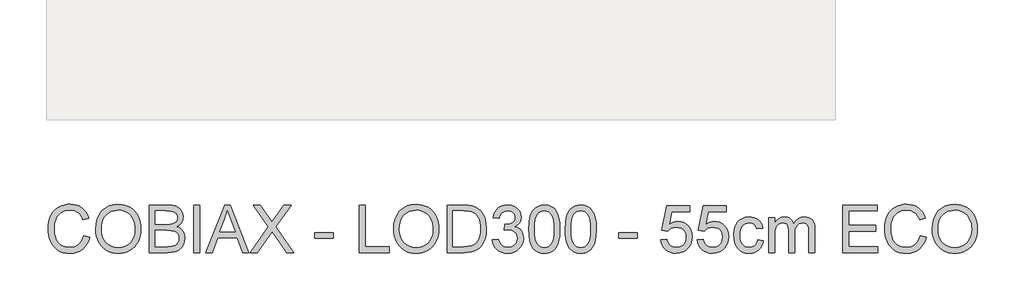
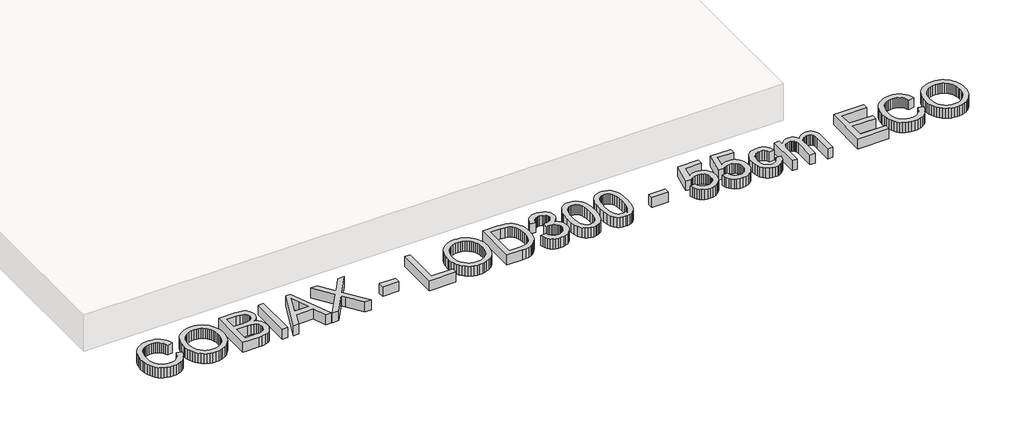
# One storey, part 8 of 18: 1 proxy.
"""IFC4 building model written with IfcOpenShell, lengths in millimetres."""

import ifcopenshell
import ifcopenshell.guid

model = None  # the IFC model being written
_history = None  # IfcOwnerHistory: only IFC2X3 demands one
_inside = {}  # id of a spatial element -> (the spatial element, [elements in it])
_under = {}  # id of a project, library or spatial element -> (it, [spatial elements below it])
_declared = {}  # id of a project -> (the project, [libraries it declares])
_typed = {}  # id of a type object -> (the type object, [elements of that type])
_made_of = {}  # id of a material, layer set ... -> (it, [elements and type objects made of it])


def new_model(schema):
    """Start an empty IFC model of exactly this schema.

    Asked for "IFC4X3", IfcOpenShell would pick the latest addendum, in which some entities
    have other attributes; the version numbers below select the first issue.
    IFC2X3 requires an IfcOwnerHistory on every rooted entity: one is made here for all.
    """
    global model, _history
    if schema == "IFC4X3":
        model = ifcopenshell.file(schema_version=(4, 3, 0, 0))
    else:
        model = ifcopenshell.file(schema=schema)
    _inside.clear()
    _under.clear()
    _declared.clear()
    _typed.clear()
    _made_of.clear()
    _history = None
    if model.schema == "IFC2X3":
        org = make("IfcOrganization", Name="unknown")
        user = make(
            "IfcPersonAndOrganization",
            ThePerson=make("IfcPerson", FamilyName="unknown"),
            TheOrganization=org,
        )
        app = make(
            "IfcApplication",
            ApplicationDeveloper=org,
            Version="unknown",
            ApplicationFullName="unknown",
            ApplicationIdentifier="unknown",
        )
        _history = make(
            "IfcOwnerHistory",
            OwningUser=user,
            OwningApplication=app,
            ChangeAction="ADDED",
            CreationDate=0,
        )
    return model


def make(cls, **values):
    """One entity of the class cls with the attributes given. An attribute that is None is left unset."""
    return model.create_entity(
        cls, **{name: value for name, value in values.items() if value is not None}
    )


def rooted(cls, **values):
    """An entity with a GlobalId (a new one), such as an element, a storey or a relation."""
    return make(cls, GlobalId=ifcopenshell.guid.new(), OwnerHistory=_history, **values)


def si_unit(unit_type, name, prefix=None):
    """IfcSIUnit, for example si_unit("LENGTHUNIT", "METRE", prefix="MILLI")."""
    return make("IfcSIUnit", UnitType=unit_type, Prefix=prefix, Name=name)


def assignment(units):
    """IfcUnitAssignment: the units of a project."""
    return None if units is None else make("IfcUnitAssignment", Units=units)


def point(xyz):
    """IfcCartesianPoint."""
    return None if xyz is None else make("IfcCartesianPoint", Coordinates=xyz)


def direction(xyz):
    """IfcDirection."""
    return None if xyz is None else make("IfcDirection", DirectionRatios=xyz)


def frame(location, z_axis=None, x_axis=None):
    """IfcAxis2Placement3D, a coordinate frame: its origin and axes. An axis left out is left unset."""
    return make(
        "IfcAxis2Placement3D",
        Location=point(location),
        Axis=direction(z_axis),
        RefDirection=direction(x_axis),
    )


def origin():
    """The frame at (0, 0, 0) with its axes left unset."""
    return frame((0.0, 0.0, 0.0))


def origin_with_axes():
    """The frame at (0, 0, 0) with the z axis (0, 0, 1) and the x axis (1, 0, 0) written out."""
    return frame((0.0, 0.0, 0.0), z_axis=(0.0, 0.0, 1.0), x_axis=(1.0, 0.0, 0.0))


def place(relative_to, where):
    """IfcLocalPlacement: puts the frame where relative to a parent placement (None: the world)."""
    return make(
        "IfcLocalPlacement", PlacementRelTo=relative_to, RelativePlacement=where
    )


def context(
    kind, dimensions, precision=None, world=None, true_north=None, identifier=None
):
    """IfcGeometricRepresentationContext, for example the 3D "Model" context."""
    return make(
        "IfcGeometricRepresentationContext",
        ContextIdentifier=identifier,
        ContextType=kind,
        CoordinateSpaceDimension=dimensions,
        Precision=precision,
        WorldCoordinateSystem=world,
        TrueNorth=true_north,
    )


def project(units=None, contexts=None):
    """IfcProject with its units and contexts."""
    return rooted(
        "IfcProject",
        Name="project",
        RepresentationContexts=contexts,
        UnitsInContext=assignment(units),
    )


def spatial(cls, under=None, at=None, **own):
    """A site, building, storey or space (cls), placed at a placement, below another one or the project."""
    s = rooted(cls, ObjectPlacement=at, **own)
    if under is not None:
        _under.setdefault(under.id(), (under, []))[1].append(s)
    return s


def polyline(points):
    """IfcPolyline through the points."""
    return make("IfcPolyline", Points=[point(p) for p in points])


def outline(outer, holes=None, kind="AREA"):
    """IfcArbitraryClosedProfileDef: a profile drawn as a closed curve; with holes, ...WithVoids."""
    if holes is None:
        return make("IfcArbitraryClosedProfileDef", ProfileType=kind, OuterCurve=outer)
    return make(
        "IfcArbitraryProfileDefWithVoids",
        ProfileType=kind,
        OuterCurve=outer,
        InnerCurves=holes,
    )


def extrude(swept, where, along, depth):
    """IfcExtrudedAreaSolid: the profile swept, set in the frame where, extruded along a direction by depth."""
    return make(
        "IfcExtrudedAreaSolid",
        SweptArea=swept,
        Position=where,
        ExtrudedDirection=direction(along),
        Depth=depth,
    )


def shape(context_of_items, identifier, shape_type, items):
    """IfcShapeRepresentation: the items that make up one representation, for example the "Body"."""
    return make(
        "IfcShapeRepresentation",
        ContextOfItems=context_of_items,
        RepresentationIdentifier=identifier,
        RepresentationType=shape_type,
        Items=items,
    )


def made_of(thing, what):
    """Note that an element or type object is made of a material, layer set ...; save() writes the relation."""
    if what is not None:
        _made_of.setdefault(what.id(), (what, []))[1].append(thing)
    return thing


def element(
    cls,
    number,
    at=None,
    inside=None,
    cuts=None,
    type_object=None,
    material=None,
    context=None,
    identifier="Body",
    shape_type=None,
    held_by="IfcProductDefinitionShape",
    body=None,
    shapes=None,
    **own,
):
    """One element of the class cls, such as IfcWall. Its Tag is "e" and its number.

    at: its placement. inside: the storey or other place that contains it. cuts: it is an
    opening in that element (IfcRelVoidsElement). A single representation is given by context,
    identifier, shape_type and body (its items); several are given by shapes. held_by: the class
    of the entity that holds the representations. save() writes the other relations.
    """
    e = rooted(cls, Tag="e%d" % number, ObjectPlacement=at, **own)
    if body is not None:
        shapes = [shape(context, identifier, shape_type, body)]
    if shapes is not None:
        e.Representation = make(held_by, Representations=shapes)
    if inside is not None:
        _inside.setdefault(inside.id(), (inside, []))[1].append(e)
    if cuts is not None:
        rooted(
            "IfcRelVoidsElement", RelatingBuildingElement=cuts, RelatedOpeningElement=e
        )
    if type_object is not None:
        _typed.setdefault(type_object.id(), (type_object, []))[1].append(e)
    return made_of(e, material)


def aggregate(whole, parts):
    """IfcRelAggregates: a whole, such as a stair, and the parts it consists of."""
    return rooted("IfcRelAggregates", RelatingObject=whole, RelatedObjects=parts)


def save(model, path):
    """Write the relations noted so far, then the file.

    IfcRelAggregates (storeys below a building ...), IfcRelContainedInSpatialStructure (elements
    in a storey), IfcRelDefinesByType, IfcRelAssociatesMaterial and IfcRelDeclares: one each for
    every whole, place, type object, material and project.
    """
    for whole, parts in _under.values():
        aggregate(whole, parts)
    for where, things in _inside.values():
        rooted(
            "IfcRelContainedInSpatialStructure",
            RelatedElements=things,
            RelatingStructure=where,
        )
    for kind, things in _typed.values():
        rooted("IfcRelDefinesByType", RelatedObjects=things, RelatingType=kind)
    for what, things in _made_of.values():
        rooted("IfcRelAssociatesMaterial", RelatedObjects=things, RelatingMaterial=what)
    for by, libraries in _declared.values():
        rooted("IfcRelDeclares", RelatingContext=by, RelatedDefinitions=libraries)
    model.write(path)


model = new_model("IFC4")

# Units and contexts
model_context = context("Model", 3, world=origin())
ifc_project = project(units=[si_unit("LENGTHUNIT", "METRE", prefix="MILLI")], contexts=[model_context])

# Site, building, storey
site = spatial("IfcSite", under=ifc_project)
building = spatial("IfcBuilding", under=site)
storey = spatial("IfcBuildingStorey", under=building, Name="COBIAX Slabs", Elevation=0.0)

# Proxy
placement = place(None, origin())
element("IfcBuildingElementProxy", 1, Name="600mm Arial", ObjectType="600mm Arial", at=placement, inside=storey, context=model_context, shape_type="SweptSolid", body=[
    extrude(outline(polyline([(-5201.7846047, -62740.3003464), (-5126.4423721, -62759.7245158), (-5141.35079, -62806.5788864), (-5161.2072206, -62847.5195539), (-5186.0116642, -62882.5465184), (-5215.7641205, -62911.6597798), (-5249.7932051, -62934.5466384), (-5287.4275332, -62950.8943946), (-5328.6671048, -62960.7030483), (-5373.5119201, -62963.9725995), (-5419.4557827, -62961.4985931), (-5460.902288, -62954.0765738), (-5497.8514359, -62941.7065417), (-5530.3032264, -62924.3884968), (-5558.7037164, -62902.3799564), (-5583.4989629, -62875.938438), (-5604.6889658, -62845.0639416), (-5622.2737252, -62809.7564671), (-5636.0830956, -62771.5427249), (-5645.9469316, -62731.9494251), (-5651.8652332, -62690.9765679), (-5653.8380004, -62648.6241532), (-5651.6077158, -62603.1815298), (-5644.916862, -62560.7371446), (-5633.765439, -62521.2909976), (-5618.1534469, -62484.843089), (-5598.4303734, -62451.9958253), (-5574.9457065, -62423.3516135), (-5547.6994462, -62398.9104534), (-5516.6915926, -62378.6723452), (-5482.9752077, -62362.8028356), (-5447.6033539, -62351.4674716), (-5410.5760311, -62344.6662532), (-5371.8932393, -62342.3991804), (-5328.8004621, -62345.3330393), (-5289.2853373, -62354.1346161), (-5253.3478649, -62368.8039106), (-5220.9880449, -62389.340923), (-5192.7393062, -62415.2030273), (-5169.1350776, -62445.8475975), (-5150.1753593, -62481.2746336), (-5135.8601512, -62521.4841357), (-5211.2023838, -62539.436777), (-5223.0665781, -62509.8084809), (-5237.3220054, -62484.4936011), (-5253.9686657, -62463.4921377), (-5273.006559, -62446.8040907), (-5294.5460498, -62434.0891692), (-5318.6975028, -62425.0070824), (-5345.4609179, -62419.5578304), (-5374.8362952, -62417.741413), (-5408.6354535, -62419.755567), (-5439.5467382, -62425.7980287), (-5467.5701492, -62435.8687984), (-5492.7056865, -62449.9678758), (-5514.6360519, -62467.4606647), (-5533.0439473, -62487.7125685), (-5547.9293725, -62510.7235873), (-5559.2923276, -62536.4937211), (-5573.6949077, -62591.6392322), (-5578.4957678, -62648.4770004), (-5572.8119909, -62718.0802739), (-5565.7072699, -62749.3502435), (-5555.7606605, -62778.2657683), (-5542.8112142, -62804.2520328), (-5526.6979829, -62826.7342212), (-5507.4209663, -62845.7123336), (-5484.9801646, -62861.18637), (-5460.4654281, -62873.1931186), (-5434.9666074, -62881.7693677), (-5408.4837022, -62886.9151171), (-5381.0167128, -62888.6303669), (-5348.2614196, -62886.2943162), (-5318.1272857, -62879.2861642), (-5290.614311, -62867.6059108), (-5265.7224955, -62851.2535562), (-5244.0404504, -62830.3026765), (-5226.1567869, -62804.8268484), (-5212.071505, -62774.8260717), (-5201.7846047, -62740.3003464)])), origin_with_axes(), (0.0, 0.0, 1.0), 150.0),
    extrude(outline(polyline([(-5051.1001395, -62661.1321411), (-5046.0785503, -62590.4344186), (-5031.0137825, -62527.8484942), (-5005.9058364, -62473.3743678), (-4989.5856714, -62449.1792288), (-4970.7547117, -62427.0120393), (-4927.6665331, -62389.9939136), (-4878.7474247, -62363.5523952), (-4823.9973868, -62347.6874841), (-4763.4164193, -62342.3991804), (-4722.8666263, -62344.8823839), (-4684.3585785, -62352.3319943), (-4647.8922757, -62364.7480116), (-4613.467718, -62382.1304359), (-4582.0505956, -62403.9550353), (-4554.6065988, -62429.6975779), (-4531.1357275, -62459.3580637), (-4511.6379818, -62492.9364929), (-4496.3156967, -62529.6695101), (-4485.3712073, -62568.7937603), (-4478.8045137, -62610.3092434), (-4476.6156158, -62654.2159595), (-4478.9194768, -62698.7020898), (-4485.8310598, -62740.778593), (-4497.3503648, -62780.4454691), (-4513.4773917, -62817.7027182), (-4533.8304631, -62851.5662559), (-4558.0279014, -62881.0519978), (-4586.0697064, -62906.1599439), (-4617.9558784, -62926.8900944), (-4652.4310198, -62943.1136904), (-4688.2397335, -62954.7019732), (-4725.3820195, -62961.6549429), (-4763.8578777, -62963.9725995), (-4805.1158434, -62961.4112211), (-4844.129729, -62953.7270859), (-4880.8995344, -62940.920194), (-4915.4252597, -62922.9905452), (-4946.8055939, -62900.632517), (-4974.1392261, -62874.5404865), (-4997.4261564, -62844.7144537), (-5016.6663847, -62811.1544187), (-5031.7311524, -62775.2077492), (-5042.4917008, -62738.2218131), (-5048.9480298, -62700.1966104), (-5051.1001395, -62661.1321411)]), holes=[polyline([(-4975.7579069, -62661.867905), (-4971.9917149, -62711.8170829), (-4960.6931392, -62756.1560604), (-4941.8621795, -62794.8848374), (-4915.4988361, -62828.0034141), (-4883.4517158, -62854.5277059), (-4847.5694257, -62873.4736287), (-4807.8519657, -62884.8411823), (-4764.299336, -62888.6303669), (-4720.0017453, -62884.8043941), (-4679.8152359, -62873.3264759), (-4643.7398077, -62854.1966121), (-4611.7754608, -62827.4148029), (-4585.6052554, -62793.5972505), (-4566.9122515, -62753.3601572), (-4555.6964492, -62706.7035232), (-4551.9578484, -62653.6273484), (-4553.5581351, -62619.1476084), (-4558.3589951, -62586.9303426), (-4566.3604285, -62556.9755512), (-4577.5624353, -62529.283234), (-4591.8408552, -62504.2166745), (-4609.0715282, -62482.1391563), (-4629.2544541, -62463.0506793), (-4652.3896331, -62446.9512435), (-4677.7596952, -62434.1719427), (-4704.6472705, -62425.0438706), (-4733.0523591, -62419.5670274), (-4762.9749609, -62417.741413), (-4805.0146759, -62421.2592846), (-4844.0193644, -62431.8128994), (-4879.9890265, -62449.4022573), (-4912.9236621, -62474.0273583), (-4940.4136442, -62506.874622), (-4960.0493457, -62549.1304676), (-4971.8307666, -62600.7948953), (-4975.7579069, -62661.867905)])]), origin_with_axes(), (0.0, 0.0, 1.0), 150.0),
    extrude(outline(polyline([(-4373.020046, -62954.5548204), (-4373.020046, -62351.8169595), (-4143.0202226, -62351.8169595), (-4079.7629135, -62356.2499375), (-4030.3747557, -62369.5488717), (-4010.2975958, -62379.6058457), (-3992.5196984, -62392.0448557), (-3977.0410634, -62406.8659016), (-3963.8616909, -62424.0689834), (-3945.8170791, -62461.7400997), (-3939.8022085, -62501.1770495), (-3944.8605859, -62537.4686084), (-3960.0357182, -62571.5896634), (-3985.43797, -62601.4432873), (-4021.1777058, -62624.9325527), (-3998.438, -62634.6262433), (-3978.4850002, -62647.2262016), (-3961.3187066, -62662.7324277), (-3946.9391192, -62681.1449216), (-3935.576164, -62701.9026632), (-3927.4597675, -62724.4446324), (-3922.5899296, -62748.7708294), (-3920.9666503, -62774.881254), (-3925.3996283, -62816.9117719), (-3938.6985625, -62855.8888693), (-3958.5457961, -62889.0350371), (-3982.6236727, -62913.5727661), (-4012.1094146, -62931.3414665), (-4048.1802442, -62944.1805481), (-4092.013384, -62951.9612523), (-4144.7860562, -62954.5548204), (-4373.020046, -62954.5548204)]), holes=[polyline([(-4297.6778134, -62596.6792155), (-4160.0899472, -62596.6792155), (-4111.9709822, -62595.0605347), (-4079.7445194, -62590.2044924), (-4051.6199409, -62579.0392738), (-4031.4048253, -62562.3190371), (-4019.2095371, -62540.3012997), (-4015.1444411, -62513.243579), (-4018.9336256, -62486.9768045), (-4030.3011793, -62464.0945444), (-4048.7320672, -62446.2338736), (-4073.7112547, -62435.0318668), (-4112.0445586, -62429.1273608), (-4170.5377958, -62427.1591921), (-4297.6778134, -62427.1591921), (-4297.6778134, -62596.6792155)]), polyline([(-4297.6778134, -62879.2125878), (-4143.1673754, -62879.2125878), (-4087.2493121, -62876.2695318), (-4061.2952374, -62869.7396264), (-4039.9396875, -62859.8619948), (-4022.5756574, -62845.7169321), (-4008.5961416, -62826.3847333), (-3999.3806976, -62802.729921), (-3996.3088829, -62775.617018), (-3999.9141265, -62744.1263192), (-4010.7298571, -62717.0502043), (-4029.6205976, -62695.8785955), (-4057.4508705, -62682.1014148), (-4096.8694263, -62674.5414398), (-4150.5250153, -62672.0214481), (-4297.6778134, -62672.0214481), (-4297.6778134, -62879.2125878)])]), origin_with_axes(), (0.0, 0.0, 1.0), 150.0),
    extrude(outline(polyline([(-3807.9533014, -62954.5548204), (-3807.9533014, -62351.8169595), (-3732.6110688, -62351.8169595), (-3732.6110688, -62954.5548204), (-3807.9533014, -62954.5548204)])), origin_with_axes(), (0.0, 0.0, 1.0), 150.0),
    extrude(outline(polyline([(-3652.1184882, -62954.5548204), (-3411.5236634, -62351.8169595), (-3347.3650434, -62351.8169595), (-3106.7702186, -62954.5548204), (-3186.3798823, -62954.5548204), (-3255.3945446, -62766.1992389), (-3503.641315, -62766.1992389), (-3572.5088245, -62954.5548204), (-3652.1184882, -62954.5548204)]), holes=[polyline([(-3475.9765889, -62690.8570063), (-3282.9121179, -62690.8570063), (-3337.2115004, -62542.6741386), (-3379.4443534, -62427.1591921), (-3416.9683169, -62529.7246924), (-3475.9765889, -62690.8570063)])]), origin_with_axes(), (0.0, 0.0, 1.0), 150.0),
    extrude(outline(polyline([(-3092.2020916, -62954.5548204), (-2859.8478234, -62626.1097751), (-3054.5309753, -62351.8169595), (-2964.1791572, -62351.8169595), (-2854.5503227, -62506.1802447), (-2828.3939128, -62545.2861008), (-2817.6149704, -62566.3657391), (-2774.3520477, -62505.1501751), (-2665.9004356, -62351.8169595), (-2574.2242424, -62351.8169595), (-2768.9073942, -62626.9926919), (-2536.5531261, -62954.5548204), (-2626.9049441, -62954.5548204), (-2781.7096876, -62736.1800681), (-2813.9361504, -62690.8570063), (-2849.3999748, -62740.594652), (-3000.5258984, -62954.5548204), (-3092.2020916, -62954.5548204)])), origin_with_axes(), (0.0, 0.0, 1.0), 150.0),
    extrude(outline(polyline([(-2272.8553119, -62775.617018), (-2272.8553119, -62700.2747853), (-2037.410835, -62700.2747853), (-2037.410835, -62775.617018), (-2272.8553119, -62775.617018)])), origin_with_axes(), (0.0, 0.0, 1.0), 150.0),
    extrude(outline(polyline([(-1707.7885673, -62954.5548204), (-1707.7885673, -62351.8169595), (-1632.4463347, -62351.8169595), (-1632.4463347, -62879.2125878), (-1331.0774043, -62879.2125878), (-1331.0774043, -62954.5548204), (-1707.7885673, -62954.5548204)])), origin_with_axes(), (0.0, 0.0, 1.0), 150.0),
    extrude(outline(polyline([(-1274.5707298, -62661.1321411), (-1269.5491406, -62590.4344186), (-1254.4843729, -62527.8484942), (-1229.3764267, -62473.3743678), (-1213.0562617, -62449.1792288), (-1194.2253021, -62427.0120393), (-1151.1371234, -62389.9939136), (-1102.2180151, -62363.5523952), (-1047.4679771, -62347.6874841), (-986.8870096, -62342.3991804), (-946.3372167, -62344.8823839), (-907.8291688, -62352.3319943), (-871.362866, -62364.7480116), (-836.9383083, -62382.1304359), (-805.5211859, -62403.9550353), (-778.0771891, -62429.6975779), (-754.6063178, -62459.3580637), (-735.1085721, -62492.9364929), (-719.786287, -62529.6695101), (-708.8417976, -62568.7937603), (-702.275104, -62610.3092434), (-700.0862061, -62654.2159595), (-702.3900671, -62698.7020898), (-709.3016501, -62740.778593), (-720.8209551, -62780.4454691), (-736.947982, -62817.7027182), (-757.3010534, -62851.5662559), (-781.4984917, -62881.0519978), (-809.5402967, -62906.1599439), (-841.4264687, -62926.8900944), (-875.9016102, -62943.1136904), (-911.7103239, -62954.7019732), (-948.8526098, -62961.6549429), (-987.328468, -62963.9725995), (-1028.5864337, -62961.4112211), (-1067.6003193, -62953.7270859), (-1104.3701247, -62940.920194), (-1138.89585, -62922.9905452), (-1170.2761842, -62900.632517), (-1197.6098164, -62874.5404865), (-1220.8967467, -62844.7144537), (-1240.1369751, -62811.1544187), (-1255.2017428, -62775.2077492), (-1265.9622911, -62738.2218131), (-1272.4186201, -62700.1966104), (-1274.5707298, -62661.1321411)]), holes=[polyline([(-1199.2284972, -62661.867905), (-1195.4623053, -62711.8170829), (-1184.1637295, -62756.1560604), (-1165.3327699, -62794.8848374), (-1138.9694264, -62828.0034141), (-1106.9223061, -62854.5277059), (-1071.040016, -62873.4736287), (-1031.3225561, -62884.8411823), (-987.7699264, -62888.6303669), (-943.4723356, -62884.8043941), (-903.2858262, -62873.3264759), (-867.210398, -62854.1966121), (-835.2460512, -62827.4148029), (-809.0758457, -62793.5972505), (-790.3828418, -62753.3601572), (-779.1670395, -62706.7035232), (-775.4284387, -62653.6273484), (-777.0287254, -62619.1476084), (-781.8295855, -62586.9303426), (-789.8310189, -62556.9755512), (-801.0330256, -62529.283234), (-815.3114455, -62504.2166745), (-832.5421185, -62482.1391563), (-852.7250445, -62463.0506793), (-875.8602234, -62446.9512435), (-901.2302855, -62434.1719427), (-928.1178608, -62425.0438706), (-956.5229494, -62419.5670274), (-986.4455512, -62417.741413), (-1028.4852662, -62421.2592846), (-1067.4899547, -62431.8128994), (-1103.4596168, -62449.4022573), (-1136.3942524, -62474.0273583), (-1163.8842345, -62506.874622), (-1183.519936, -62549.1304676), (-1195.3013569, -62600.7948953), (-1199.2284972, -62661.867905)])]), origin_with_axes(), (0.0, 0.0, 1.0), 150.0),
    extrude(outline(polyline([(-596.4906363, -62954.5548204), (-596.4906363, -62351.8169595), (-388.5637326, -62351.8169595), (-326.4284636, -62353.9874633), (-280.9950372, -62360.4989746), (-232.9496487, -62377.2376054), (-192.4090528, -62403.6147444), (-170.0694186, -62425.1726293), (-150.7280227, -62449.5264174), (-134.3848651, -62476.6761087), (-121.0399457, -62506.6217031), (-110.6748705, -62539.0872892), (-103.2712454, -62573.7969554), (-97.3483452, -62649.9485284), (-101.358259, -62714.6405773), (-113.3880002, -62771.570316), (-131.7085236, -62820.0387689), (-154.5907837, -62859.3469601), (-180.9311345, -62890.3778063), (-209.6259302, -62914.0142245), (-242.5697628, -62931.5438016), (-281.6572248, -62944.2541245), (-326.9618925, -62951.9796464), (-378.5573423, -62954.5548204), (-596.4906363, -62954.5548204)]), holes=[polyline([(-521.1484037, -62879.2125878), (-387.8279686, -62879.2125878), (-332.6824575, -62876.490261), (-290.8542747, -62868.3232807), (-259.2899995, -62855.1898935), (-234.9362114, -62837.5683459), (-208.7614075, -62804.9556071), (-189.0981148, -62762.7411481), (-176.7924621, -62710.7410281), (-172.6905778, -62648.771306), (-174.7001332, -62605.0301368), (-180.7287994, -62566.6600447), (-190.7765764, -62533.6610297), (-204.8434642, -62506.0330919), (-221.7890286, -62483.1508318), (-240.4728355, -62464.38885), (-260.8948847, -62449.7471466), (-283.0551764, -62439.2257216), (-326.3916754, -62430.1758245), (-389.8881078, -62427.1591921), (-521.1484037, -62427.1591921), (-521.1484037, -62879.2125878)])]), origin_with_axes(), (0.0, 0.0, 1.0), 150.0),
    extrude(outline(polyline([(-22.0061126, -62794.4525761), (53.33612, -62785.034797), (70.2035095, -62832.3812098), (81.5756616, -62850.2878659), (94.9067854, -62864.3501552), (110.5003835, -62874.9727478), (128.6599585, -62882.5603139), (149.3855104, -62887.1128536), (172.6770392, -62888.6303669), (199.9738833, -62886.5426365), (224.3276713, -62880.2794456), (245.7384035, -62869.840794), (264.2060796, -62855.2266817), (279.0777093, -62837.5315577), (289.7003019, -62817.849871), (296.0738575, -62796.1816215), (298.198376, -62772.5268092), (296.0922516, -62749.9986355), (289.7738783, -62729.5030099), (279.2432562, -62711.0399322), (264.5003852, -62694.6094026), (246.5109557, -62681.121929), (226.2406577, -62671.4880192), (203.6894914, -62665.7076734), (178.8574567, -62663.7808914), (155.0554917, -62665.8410306), (126.0296022, -62672.0214481), (134.4173117, -62596.6792155), (146.4838412, -62597.5621323), (191.622962, -62592.154267), (231.9796168, -62575.930671), (248.5894889, -62563.6618064), (260.4536833, -62548.4866741), (267.5721999, -62530.4052741), (269.9450388, -62509.4176062), (268.2251904, -62492.3800713), (263.0656454, -62476.8784438), (254.4664038, -62462.9127235), (242.4274655, -62450.4829106), (227.6753975, -62440.2787838), (210.9367667, -62432.9901217), (171.4998168, -62427.1591921), (150.8432428, -62428.6307201), (131.9892906, -62433.045304), (114.9379601, -62440.4029439), (99.6892514, -62450.7036398), (86.6202435, -62463.9473916), (76.1080155, -62480.1341994), (68.1525673, -62499.2640632), (62.7538991, -62521.3369829), (-12.5883335, -62511.9192038), (-3.6579981, -62475.9495417), (9.5949508, -62444.2657049), (27.1705131, -62416.8676933), (49.0686888, -62393.755507), (74.5996993, -62375.4073924), (103.0737657, -62362.3015964), (134.4908881, -62354.4381187), (168.8510665, -62351.8169595), (216.2158734, -62356.9857015), (259.7179193, -62372.4919276), (296.3957542, -62396.9560803), (323.2879281, -62428.9986021), (339.7874355, -62465.9155603), (345.2872714, -62505.0030223), (340.063347, -62541.4233398), (324.391574, -62574.459143), (298.4926816, -62602.6021156), (262.5873988, -62624.3439415), (287.695345, -62632.1982221), (309.7498706, -62643.4002289), (328.7509757, -62657.9499618), (344.6986602, -62675.8474209), (357.3170126, -62696.6511477), (366.3301215, -62719.9196839), (371.7379868, -62745.6530294), (373.5406086, -62773.8511844), (369.935365, -62812.0741237), (359.1196344, -62847.2804306), (341.0934166, -62879.4701052), (315.8567117, -62908.6431474), (285.110974, -62932.8497827), (250.5576576, -62950.1402365), (212.1967626, -62960.5145087), (170.0282889, -62963.9725995), (131.9157142, -62961.0203465), (97.1876538, -62952.1635874), (65.8441078, -62937.4023224), (37.8850762, -62916.7365513), (14.4417961, -62891.3802848), (-3.3544955, -62862.5475334), (-15.5037984, -62830.2382972), (-22.0061126, -62794.4525761)])), origin_with_axes(), (0.0, 0.0, 1.0), 150.0),
    extrude(outline(polyline([(439.4650621, -62658.0419323), (445.0016862, -62561.5648791), (451.9224662, -62520.6518027), (461.6115582, -62484.6223598), (474.0275756, -62453.1822448), (489.1291315, -62426.037152), (506.9162259, -62403.1870816), (527.388859, -62384.6320335), (550.6160084, -62370.2754386), (576.6666522, -62360.020728), (605.5407903, -62353.8679016), (637.2384227, -62351.8169595), (683.6651305, -62356.6730018), (725.235796, -62371.2411289), (760.0006445, -62394.9511234), (786.0099016, -62427.2327685), (805.6548001, -62467.8101526), (821.3265731, -62516.4073642), (831.5904808, -62578.1195688), (835.0117833, -62658.0419323), (829.5303416, -62753.9671625), (822.6785395, -62794.7422832), (813.0860164, -62830.7257408), (800.7665681, -62862.1796514), (785.7339901, -62889.3661309), (767.9882823, -62912.2851792), (747.5294449, -62930.9367963), (724.2747043, -62945.3899602), (698.141287, -62955.7136487), (669.1291932, -62961.9078618), (637.2384227, -62963.9725995), (595.7413337, -62960.38575), (558.9531342, -62949.6252017), (526.8738242, -62931.6909544), (499.5034037, -62906.5830082), (473.2366293, -62861.1955671), (454.4746475, -62804.6429074), (443.2174585, -62736.9250291), (439.4650621, -62658.0419323)]), holes=[polyline([(514.8072947, -62657.8947795), (517.0145867, -62723.3915702), (523.6364626, -62776.4079642), (534.6729225, -62816.9439616), (550.1239663, -62844.9995622), (568.8123716, -62864.0880393), (589.5609162, -62877.7226657), (612.3695999, -62885.9034416), (637.2384227, -62888.6303669), (662.1072456, -62885.8942445), (684.9159293, -62877.6858775), (705.6644738, -62864.0052658), (724.3528792, -62844.8524094), (739.803923, -62816.7508235), (750.8403828, -62776.2240232), (757.4622588, -62723.2720086), (759.6695507, -62657.8947795), (757.5358352, -62594.1316327), (751.1346884, -62542.0487392), (740.4661106, -62501.6460991), (725.5301016, -62472.9237123), (707.1543959, -62452.9017347), (686.1667281, -62438.6003222), (662.5670981, -62430.0194746), (636.3555059, -62427.1591921), (611.6154418, -62429.6791838), (589.1930342, -62437.2391588), (569.0882831, -62449.8391171), (551.3011887, -62467.4790588), (535.3351101, -62498.7490284), (523.9307682, -62540.908305), (517.0881631, -62593.9568887), (514.8072947, -62657.8947795)])]), origin_with_axes(), (0.0, 0.0, 1.0), 150.0),
    extrude(outline(polyline([(900.9362369, -62658.0419323), (906.4728609, -62561.5648791), (913.3936409, -62520.6518027), (923.082733, -62484.6223598), (935.4987503, -62453.1822448), (950.6003062, -62426.037152), (968.3874007, -62403.1870816), (988.8600337, -62384.6320335), (1012.0871832, -62370.2754386), (1038.137827, -62360.020728), (1067.0119651, -62353.8679016), (1098.7095975, -62351.8169595), (1145.1363053, -62356.6730018), (1186.7069707, -62371.2411289), (1221.4718193, -62394.9511234), (1247.4810763, -62427.2327685), (1267.1259749, -62467.8101526), (1282.7977479, -62516.4073642), (1293.0616555, -62578.1195688), (1296.4829581, -62658.0419323), (1291.0015164, -62753.9671625), (1284.1497142, -62794.7422832), (1274.5571912, -62830.7257408), (1262.2377429, -62862.1796514), (1247.2051648, -62889.3661309), (1229.4594571, -62912.2851792), (1209.0006196, -62930.9367963), (1185.745879, -62945.3899602), (1159.6124618, -62955.7136487), (1130.6003679, -62961.9078618), (1098.7095975, -62963.9725995), (1057.2125084, -62960.38575), (1020.4243089, -62949.6252017), (988.3449989, -62931.6909544), (960.9745785, -62906.5830082), (934.707804, -62861.1955671), (915.9458223, -62804.6429074), (904.6886332, -62736.9250291), (900.9362369, -62658.0419323)]), holes=[polyline([(976.2784695, -62657.8947795), (978.4857615, -62723.3915702), (985.1076374, -62776.4079642), (996.1440972, -62816.9439616), (1011.595141, -62844.9995622), (1030.2835464, -62864.0880393), (1051.0320909, -62877.7226657), (1073.8407746, -62885.9034416), (1098.7095975, -62888.6303669), (1123.5784204, -62885.8942445), (1146.3871041, -62877.6858775), (1167.1356486, -62864.0052658), (1185.8240539, -62844.8524094), (1201.2750977, -62816.7508235), (1212.3115576, -62776.2240232), (1218.9334335, -62723.2720086), (1221.1407255, -62657.8947795), (1219.0070099, -62594.1316327), (1212.6058632, -62542.0487392), (1201.9372853, -62501.6460991), (1187.0012763, -62472.9237123), (1168.6255707, -62452.9017347), (1147.6379028, -62438.6003222), (1124.0382729, -62430.0194746), (1097.8266807, -62427.1591921), (1073.0866165, -62429.6791838), (1050.6642089, -62437.2391588), (1030.5594579, -62449.8391171), (1012.7723634, -62467.4790588), (996.8062848, -62498.7490284), (985.401943, -62540.908305), (978.5593379, -62593.9568887), (976.2784695, -62657.8947795)])]), origin_with_axes(), (0.0, 0.0, 1.0), 150.0),
    extrude(outline(polyline([(1579.0163304, -62775.617018), (1579.0163304, -62700.2747853), (1814.4608073, -62700.2747853), (1814.4608073, -62775.617018), (1579.0163304, -62775.617018)])), origin_with_axes(), (0.0, 0.0, 1.0), 150.0),
    extrude(outline(polyline([(2115.8297378, -62794.4525761), (2191.1719704, -62785.034797), (2196.8005649, -62809.2552279), (2205.0043334, -62830.2658883), (2215.7832758, -62848.0667784), (2229.1373923, -62862.657898), (2245.0390915, -62874.0208531), (2263.4607824, -62882.1372497), (2284.402465, -62887.0070876), (2307.8641392, -62888.6303669), (2336.5589349, -62886.3724911), (2361.8692161, -62879.5988639), (2383.794983, -62868.3094852), (2402.3362356, -62852.5043549), (2417.0791066, -62832.9652225), (2427.6097287, -62810.473837), (2433.9281019, -62785.0301985), (2436.0342264, -62756.634307), (2434.0614592, -62729.7973155), (2428.1431576, -62705.9401681), (2418.2793216, -62685.0628648), (2404.4699512, -62667.1654058), (2386.6690611, -62652.8088109), (2364.8306662, -62642.5541003), (2338.9547664, -62636.4012739), (2309.0413616, -62634.3503318), (2272.4922854, -62637.6244816), (2242.8961789, -62647.4469308), (2219.2597607, -62662.4933044), (2200.5897494, -62681.4392272), (2125.2475168, -62672.0214481), (2191.1719704, -62361.2347386), (2483.1231217, -62361.2347386), (2483.1231217, -62436.5769712), (2252.0932288, -62436.5769712), (2219.866766, -62602.5653274), (2246.4554372, -62583.5090401), (2273.6879019, -62569.8974062), (2301.5641601, -62561.730426), (2330.0842117, -62559.0080992), (2366.7758422, -62562.3834165), (2400.4784315, -62572.5093684), (2431.1919796, -62589.3859549), (2458.9164865, -62613.0131761), (2481.8677244, -62641.947095), (2498.2614658, -62674.7437749), (2508.0977107, -62711.4032157), (2511.376459, -62751.9254175), (2508.424206, -62790.9576972), (2499.5674469, -62827.2676501), (2484.8061819, -62860.8552762), (2464.1404108, -62891.7205756), (2432.833653, -62923.3308361), (2396.3029709, -62945.9095935), (2354.5483644, -62959.456848), (2307.5698336, -62963.9725995), (2268.6893053, -62961.0709302), (2233.5703703, -62952.3659225), (2202.2130287, -62937.8575763), (2174.6172806, -62917.5458917), (2151.6568456, -62892.442544), (2134.2054434, -62863.5592089), (2122.2630741, -62830.8958863), (2115.8297378, -62794.4525761)])), origin_with_axes(), (0.0, 0.0, 1.0), 150.0),
    extrude(outline(polyline([(2577.3009125, -62794.4525761), (2652.6431451, -62785.034797), (2658.2717396, -62809.2552279), (2666.4755081, -62830.2658883), (2677.2544506, -62848.0667784), (2690.608567, -62862.657898), (2706.5102663, -62874.0208531), (2724.9319572, -62882.1372497), (2745.8736397, -62887.0070876), (2769.335314, -62888.6303669), (2798.0301096, -62886.3724911), (2823.3403909, -62879.5988639), (2845.2661578, -62868.3094852), (2863.8074103, -62852.5043549), (2878.5502813, -62832.9652225), (2889.0809034, -62810.473837), (2895.3992767, -62785.0301985), (2897.5054011, -62756.634307), (2895.5326339, -62729.7973155), (2889.6143323, -62705.9401681), (2879.7504963, -62685.0628648), (2865.9411259, -62667.1654058), (2848.1402359, -62652.8088109), (2826.3018409, -62642.5541003), (2800.4259411, -62636.4012739), (2770.5125364, -62634.3503318), (2733.9634601, -62637.6244816), (2704.3673536, -62647.4469308), (2680.7309354, -62662.4933044), (2662.0609242, -62681.4392272), (2586.7186916, -62672.0214481), (2652.6431451, -62361.2347386), (2944.5942965, -62361.2347386), (2944.5942965, -62436.5769712), (2713.5644035, -62436.5769712), (2681.3379407, -62602.5653274), (2707.9266119, -62583.5090401), (2735.1590766, -62569.8974062), (2763.0353348, -62561.730426), (2791.5553865, -62559.0080992), (2828.247017, -62562.3834165), (2861.9496063, -62572.5093684), (2892.6631543, -62589.3859549), (2920.3876612, -62613.0131761), (2943.3388992, -62641.947095), (2959.7326406, -62674.7437749), (2969.5688854, -62711.4032157), (2972.8476337, -62751.9254175), (2969.8953807, -62790.9576972), (2961.0386217, -62827.2676501), (2946.2773566, -62860.8552762), (2925.6115855, -62891.7205756), (2894.3048277, -62923.3308361), (2857.7741456, -62945.9095935), (2816.0195392, -62959.456848), (2769.0410084, -62963.9725995), (2730.16048, -62961.0709302), (2695.0415451, -62952.3659225), (2663.6842035, -62937.8575763), (2636.0884553, -62917.5458917), (2613.1280203, -62892.442544), (2595.6766182, -62863.5592089), (2583.7342489, -62830.8958863), (2577.3009125, -62794.4525761)])), origin_with_axes(), (0.0, 0.0, 1.0), 150.0),
    extrude(outline(polyline([(3340.1410177, -62794.4525761), (3415.4832503, -62803.8703552), (3407.2886789, -62839.4215515), (3394.4771884, -62870.8800606), (3377.0487789, -62898.2458825), (3355.0034503, -62921.5190172), (3329.2701047, -62940.0924595), (3300.7776442, -62953.3592039), (3269.5260687, -62961.3192506), (3235.5153783, -62963.9725995), (3193.2595326, -62960.2707869), (3155.3722856, -62949.1653492), (3121.8536373, -62930.6562863), (3092.7035877, -62904.7435983), (3069.1085563, -62871.9147287), (3052.2549624, -62832.6571213), (3042.142806, -62786.970776), (3038.7720873, -62734.8556929), (3044.5294405, -62667.8091993), (3051.726132, -62637.6382771), (3061.8015001, -62609.7022381), (3074.8245228, -62584.5621023), (3090.8641778, -62562.7788896), (3109.9204651, -62544.3526002), (3131.9933848, -62529.283234), (3156.085057, -62517.5661924), (3181.1976017, -62509.196877), (3207.3310189, -62504.1752878), (3234.4853087, -62502.5014247), (3267.9119865, -62504.8006872), (3298.1472879, -62511.6984746), (3325.1912131, -62523.194787), (3349.043762, -62539.2896243), (3369.3002643, -62559.6151045), (3385.55605, -62583.8033457), (3397.811119, -62611.8543478), (3406.0654712, -62643.7681109), (3330.7232386, -62653.18589), (3317.0564225, -62620.3156337), (3295.7744491, -62596.7527919), (3268.0545407, -62582.570941), (3235.0739199, -62577.8436573), (3209.4739315, -62580.170511), (3186.3847378, -62587.1510718), (3165.8063387, -62598.7853399), (3147.7387342, -62615.0733153), (3133.0280529, -62636.3920769), (3122.5204235, -62663.1187038), (3116.2158458, -62695.2531961), (3114.1143199, -62732.7955537), (3116.1698605, -62770.9035299), (3122.3364825, -62803.4105027), (3132.6141857, -62830.3164721), (3147.0029702, -62851.6214382), (3164.7118898, -62867.8128445), (3184.949998, -62879.3781347), (3207.717295, -62886.3173088), (3233.0137807, -62888.6303669), (3272.0276663, -62882.8546195), (3288.8996543, -62875.6349354), (3304.0150058, -62865.5273776), (3316.9506564, -62852.4215815), (3327.283542, -62836.2071826), (3335.0136624, -62816.8841808), (3340.1410177, -62794.4525761)])), origin_with_axes(), (0.0, 0.0, 1.0), 150.0),
    extrude(outline(polyline([(3481.4077038, -62954.5548204), (3481.4077038, -62511.9192038), (3556.7499365, -62511.9192038), (3556.7499365, -62584.7598389), (3579.4114674, -62551.3009714), (3608.5477214, -62525.0893792), (3643.1654171, -62508.1484134), (3682.2712732, -62502.5014247), (3724.1730325, -62508.258778), (3742.0061122, -62515.4554695), (3757.7606586, -62525.5308376), (3782.8502107, -62553.1771696), (3799.2577477, -62590.0573396), (3826.7201386, -62551.7516268), (3858.0452905, -62524.3904034), (3893.2332033, -62507.9736694), (3932.2838771, -62502.5014247), (3962.4456022, -62504.7776946), (3988.9193103, -62511.6065041), (4011.7050014, -62522.9878533), (4030.8026754, -62538.9217423), (4045.8996328, -62559.5921119), (4056.6831738, -62585.1829031), (4063.1532984, -62615.6941161), (4065.3100066, -62651.1257508), (4065.3100066, -62954.5548204), (3989.967774, -62954.5548204), (3989.967774, -62683.4993664), (3988.2203345, -62645.9202206), (3982.9780161, -62620.5915452), (3973.1555668, -62603.2459091), (3957.6677348, -62589.6158812), (3937.7469248, -62580.7867133), (3914.6255414, -62577.8436573), (3893.2745901, -62579.7290526), (3873.809034, -62585.3852382), (3856.2288732, -62594.8122144), (3840.5341075, -62608.0099809), (3827.626048, -62625.3648141), (3818.4060055, -62647.2629898), (3812.87398, -62673.7045082), (3811.0299715, -62704.6893693), (3811.0299715, -62954.5548204), (3735.6877389, -62954.5548204), (3735.6877389, -62675.1116569), (3731.3283373, -62632.5109218), (3725.8790852, -62615.7906851), (3718.2501323, -62602.123869), (3708.137976, -62591.5012764), (3695.2391135, -62583.9137103), (3679.553545, -62579.3611706), (3661.0812703, -62577.8436573), (3632.0553809, -62581.8903593), (3605.3103598, -62594.0304651), (3583.2374401, -62613.9696693), (3568.2278547, -62641.4136661), (3559.619416, -62679.4894526), (3556.7499365, -62731.3240257), (3556.7499365, -62954.5548204), (3481.4077038, -62954.5548204)])), origin_with_axes(), (0.0, 0.0, 1.0), 150.0),
    extrude(outline(polyline([(4423.1856115, -62954.5548204), (4423.1856115, -62351.8169595), (4856.403449, -62351.8169595), (4856.403449, -62427.1591921), (4498.5278441, -62427.1591921), (4498.5278441, -62606.0969946), (4837.5678909, -62606.0969946), (4837.5678909, -62681.4392272), (4498.5278441, -62681.4392272), (4498.5278441, -62879.2125878), (4865.8212281, -62879.2125878), (4865.8212281, -62954.5548204), (4423.1856115, -62954.5548204)])), origin_with_axes(), (0.0, 0.0, 1.0), 150.0),
    extrude(outline(polyline([(5402.6346355, -62740.3003464), (5477.9768681, -62759.7245158), (5463.0684502, -62806.5788864), (5443.2120195, -62847.5195539), (5418.407576, -62882.5465184), (5388.6551196, -62911.6597798), (5354.6260351, -62934.5466384), (5316.991707, -62950.8943946), (5275.7521353, -62960.7030483), (5230.9073201, -62963.9725995), (5184.9634574, -62961.4985931), (5143.5169522, -62954.0765738), (5106.5678043, -62941.7065417), (5074.1160138, -62924.3884968), (5045.7155237, -62902.3799564), (5020.9202773, -62875.938438), (4999.7302743, -62845.0639416), (4982.145515, -62809.7564671), (4968.3361446, -62771.5427249), (4958.4723086, -62731.9494251), (4952.554007, -62690.9765679), (4950.5812398, -62648.6241532), (4952.8115244, -62603.1815298), (4959.5023782, -62560.7371446), (4970.6538011, -62521.2909976), (4986.2657933, -62484.843089), (5005.9888668, -62451.9958253), (5029.4735337, -62423.3516135), (5056.7197939, -62398.9104534), (5087.7276476, -62378.6723452), (5121.4440324, -62362.8028356), (5156.8158863, -62351.4674716), (5193.8432091, -62344.6662532), (5232.5260009, -62342.3991804), (5275.6187781, -62345.3330393), (5315.1339029, -62354.1346161), (5351.0713753, -62368.8039106), (5383.4311953, -62389.340923), (5411.679934, -62415.2030273), (5435.2841625, -62445.8475975), (5454.2438809, -62481.2746336), (5468.559089, -62521.4841357), (5393.2168564, -62539.436777), (5381.352662, -62509.8084809), (5367.0972347, -62484.4936011), (5350.4505744, -62463.4921377), (5331.4126812, -62446.8040907), (5309.8731904, -62434.0891692), (5285.7217374, -62425.0070824), (5258.9583222, -62419.5578304), (5229.5829449, -62417.741413), (5195.7837866, -62419.755567), (5164.872502, -62425.7980287), (5136.849091, -62435.8687984), (5111.7135537, -62449.9678758), (5089.7831882, -62467.4606647), (5071.3752929, -62487.7125685), (5056.4898677, -62510.7235873), (5045.1269125, -62536.4937211), (5030.7243324, -62591.6392322), (5025.9234724, -62648.4770004), (5031.6072492, -62718.0802739), (5038.7119703, -62749.3502435), (5048.6585797, -62778.2657683), (5061.6080259, -62804.2520328), (5077.7212573, -62826.7342212), (5096.9982739, -62845.7123336), (5119.4390756, -62861.18637), (5143.953812, -62873.1931186), (5169.4526328, -62881.7693677), (5195.9355379, -62886.9151171), (5223.4025274, -62888.6303669), (5256.1578206, -62886.2943162), (5286.2919545, -62879.2861642), (5313.8049292, -62867.6059108), (5338.6967447, -62851.2535562), (5360.3787898, -62830.3026765), (5378.2624533, -62804.8268484), (5392.3477352, -62774.8260717), (5402.6346355, -62740.3003464)])), origin_with_axes(), (0.0, 0.0, 1.0), 150.0),
    extrude(outline(polyline([(5553.3191007, -62661.1321411), (5558.3406899, -62590.4344186), (5573.4054576, -62527.8484942), (5598.5134038, -62473.3743678), (5614.8335688, -62449.1792288), (5633.6645284, -62427.0120393), (5676.7527071, -62389.9939136), (5725.6718154, -62363.5523952), (5780.4218534, -62347.6874841), (5841.0028209, -62342.3991804), (5881.5526138, -62344.8823839), (5920.0606617, -62352.3319943), (5956.5269644, -62364.7480116), (5990.9515221, -62382.1304359), (6022.3686445, -62403.9550353), (6049.8126414, -62429.6975779), (6073.2835127, -62459.3580637), (6092.7812584, -62492.9364929), (6108.1035435, -62529.6695101), (6119.0480329, -62568.7937603), (6125.6147265, -62610.3092434), (6127.8036244, -62654.2159595), (6125.4997634, -62698.7020898), (6118.5881804, -62740.778593), (6107.0688754, -62780.4454691), (6090.9418484, -62817.7027182), (6070.5887771, -62851.5662559), (6046.3913388, -62881.0519978), (6018.3495337, -62906.1599439), (5986.4633618, -62926.8900944), (5951.9882203, -62943.1136904), (5916.1795066, -62954.7019732), (5879.0372207, -62961.6549429), (5840.5613625, -62963.9725995), (5799.3033968, -62961.4112211), (5760.2895112, -62953.7270859), (5723.5197058, -62940.920194), (5688.9939805, -62922.9905452), (5657.6136463, -62900.632517), (5630.2800141, -62874.5404865), (5606.9930838, -62844.7144537), (5587.7528554, -62811.1544187), (5572.6880877, -62775.2077492), (5561.9275394, -62738.2218131), (5555.4712104, -62700.1966104), (5553.3191007, -62661.1321411)]), holes=[polyline([(5628.6613333, -62661.867905), (5632.4275252, -62711.8170829), (5643.726101, -62756.1560604), (5662.5570606, -62794.8848374), (5688.9204041, -62828.0034141), (5720.9675244, -62854.5277059), (5756.8498145, -62873.4736287), (5796.5672744, -62884.8411823), (5840.1199041, -62888.6303669), (5884.4174949, -62884.8043941), (5924.6040043, -62873.3264759), (5960.6794325, -62854.1966121), (5992.6437793, -62827.4148029), (6018.8139848, -62793.5972505), (6037.5069886, -62753.3601572), (6048.722791, -62706.7035232), (6052.4613917, -62653.6273484), (6050.8611051, -62619.1476084), (6046.060245, -62586.9303426), (6038.0588116, -62556.9755512), (6026.8568049, -62529.283234), (6012.5783849, -62504.2166745), (5995.347712, -62482.1391563), (5975.164786, -62463.0506793), (5952.0296071, -62446.9512435), (5926.659545, -62434.1719427), (5899.7719696, -62425.0438706), (5871.3668811, -62419.5670274), (5841.4442793, -62417.741413), (5799.4045643, -62421.2592846), (5760.3998758, -62431.8128994), (5724.4302137, -62449.4022573), (5691.4955781, -62474.0273583), (5664.005596, -62506.874622), (5644.3698945, -62549.1304676), (5632.5884736, -62600.7948953), (5628.6613333, -62661.867905)])]), origin_with_axes(), (0.0, 0.0, 1.0), 150.0),
])

save(model, "model.ifc")
